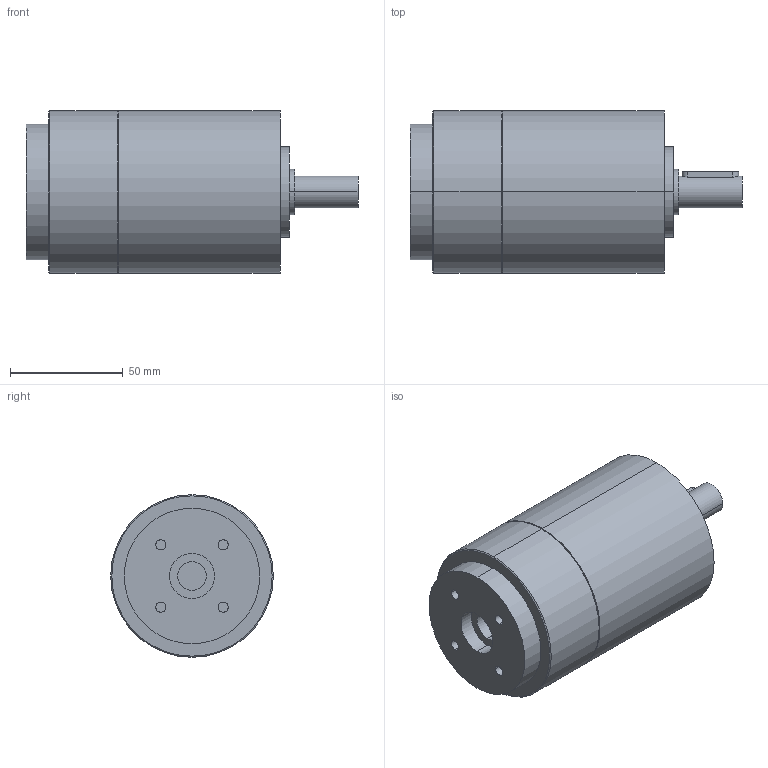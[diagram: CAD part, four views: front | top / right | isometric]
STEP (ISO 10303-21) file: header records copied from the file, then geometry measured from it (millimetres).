
FILE_DESCRIPTION(('CoCreate Modeling STEP Export'),'2;1');
FILE_NAME('GPT75_ig-9-12-16-20-25-28-35-40-50-70-100_14_B14T_12.7_P14.stp','2014-08-27T13:09:08',(''),(''),'CoCreate Modeling STEP processor for AP214 (Solid Model)','CoCreate Modeling 16.00C 25-Feb-2009 (C) Parametric Technology GmbH','');
FILE_SCHEMA(('AUTOMOTIVE_DESIGN { 1 0 10303 214 1 1 1 1 }'));
Length unit declared in the file: millimetre
Products named in the file (2): GPT75_ig-9-12-16-20-25-28-35-40-50-70-100_14_B14T_12.7_P14
Assembly tree (1 placements, depth 2):
  GPT75_ig-9-12-16-20-25-28-35-40-50-70-100_14_B14T_12.7_P14
    GPT75_ig-9-12-16-20-25-28-35-40-50-70-100_14_B14T_12.7_P14
Bounding box: 147 x 72 x 72 mm (x, y, z)
Volume: 448173.2 mm3; surface area: 38394 mm2
Topology: 1 solids, 1 shells, 61 faces, 137 edges, 94 vertices
Faces by surface type: cylinder 36, plane 21, cone 4
Entity records: 1823 total; most frequent: CARTESIAN_POINT 606, ORIENTED_EDGE 274, DIRECTION 202, EDGE_CURVE 137, VERTEX_POINT 94, AXIS2_PLACEMENT_3D 78, EDGE_LOOP 77, FACE_OUTER_BOUND 61
